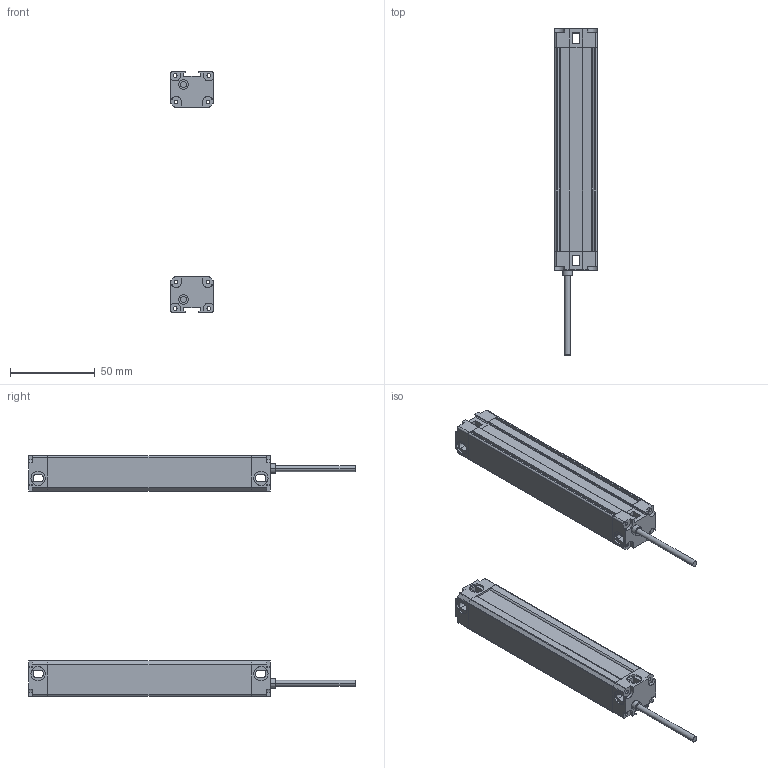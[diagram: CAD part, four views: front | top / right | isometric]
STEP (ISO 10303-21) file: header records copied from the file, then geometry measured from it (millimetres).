
FILE_DESCRIPTION (( 'STEP AP214' ), '1' );
FILE_NAME ('MTC0620.STEP', '2022-08-02T08:50:19', ( '' ), ( '' ), 'SwSTEP 2.0', 'SolidWorks 2018', '' );
FILE_SCHEMA (( 'AUTOMOTIVE_DESIGN' ));
Length unit declared in the file: millimetre
Products named in the file (5): 噩砃P02^MTC; P01^MTC; MTC0620; P02^MTC; MTC waike^MTC
Assembly tree (6 placements, depth 2):
  MTC0620
    MTC waike^MTC  x2
    P01^MTC  x2
    P02^MTC
    噩砃P02^MTC
Bounding box: 25 x 192 x 141.4 mm (x, y, z)
Volume: 55297.1 mm3; surface area: 67779.5 mm2
Topology: 8 solids, 8 shells, 480 faces, 1396 edges, 924 vertices
Faces by surface type: plane 272, cylinder 208
Entity records: 10886 total; most frequent: DIRECTION 1881, CARTESIAN_POINT 1878, ORIENTED_EDGE 1846, EDGE_CURVE 923, AXIS2_PLACEMENT_3D 637, VERTEX_POINT 610, LINE 607, VECTOR 607
